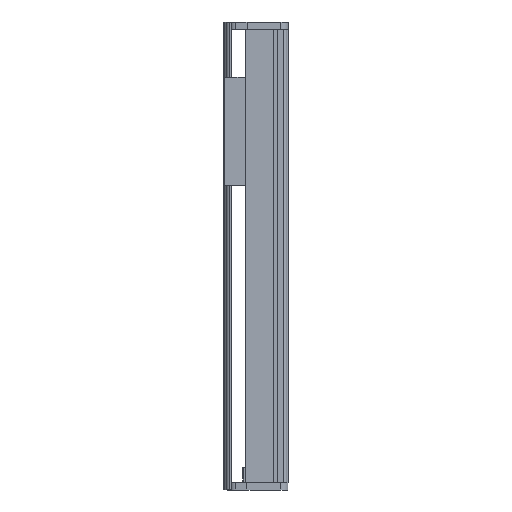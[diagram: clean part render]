
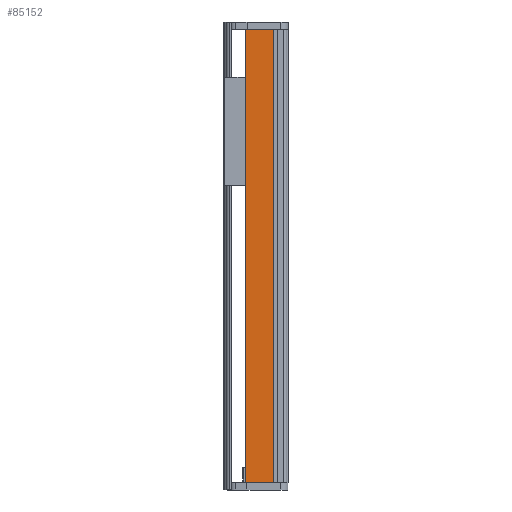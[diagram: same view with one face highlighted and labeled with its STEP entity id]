
A CAD part, left-side view. The second image highlights one B-rep face of the part: STEP entity #85152.
In plain terms, the highlighted planar face has unit normal (-1, 0, 0).
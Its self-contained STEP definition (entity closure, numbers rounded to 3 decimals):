
#1911 = DIRECTION ( 'NONE',  ( 1., 0., 0. ) ) ;
#5573 = EDGE_CURVE ( 'NONE', #101274, #77140, #8315, .T. ) ;
#8315 = LINE ( 'NONE', #10782, #54415 ) ;
#10782 = CARTESIAN_POINT ( 'NONE',  ( -96.777, 25.223, 630. ) ) ;
#10858 = DIRECTION ( 'NONE',  ( 0., 0., -1. ) ) ;
#13630 = ORIENTED_EDGE ( 'NONE', *, *, #40185, .T. ) ;
#14961 = FACE_OUTER_BOUND ( 'NONE', #85425, .T. ) ;
#16275 = ORIENTED_EDGE ( 'NONE', *, *, #5573, .T. ) ;
#21141 = CARTESIAN_POINT ( 'NONE',  ( -96.777, -13.077, 630. ) ) ;
#21590 = VECTOR ( 'NONE', #73164, 1000. ) ;
#32968 = CARTESIAN_POINT ( 'NONE',  ( -96.777, -13.077, 630. ) ) ;
#33149 = VECTOR ( 'NONE', #87124, 1000. ) ;
#34558 = VECTOR ( 'NONE', #98642, 1000. ) ;
#36439 = PLANE ( 'NONE',  #66694 ) ;
#37827 = CARTESIAN_POINT ( 'NONE',  ( -96.777, 0., 0. ) ) ;
#40185 = EDGE_CURVE ( 'NONE', #77140, #93529, #57632, .T. ) ;
#41188 = EDGE_CURVE ( 'NONE', #101274, #73255, #105171, .T. ) ;
#43992 = ORIENTED_EDGE ( 'NONE', *, *, #63591, .T. ) ;
#44636 = LINE ( 'NONE', #21141, #21590 ) ;
#53982 = CARTESIAN_POINT ( 'NONE',  ( -96.777, 25.223, 0. ) ) ;
#54415 = VECTOR ( 'NONE', #10858, 1000. ) ;
#57632 = LINE ( 'NONE', #37827, #34558 ) ;
#62628 = DIRECTION ( 'NONE',  ( 0., 1., 0. ) ) ;
#63591 = EDGE_CURVE ( 'NONE', #93529, #73255, #44636, .T. ) ;
#66694 = AXIS2_PLACEMENT_3D ( 'NONE', #105227, #1911, #62628 ) ;
#68548 = CARTESIAN_POINT ( 'NONE',  ( -96.777, 25.223, 630. ) ) ;
#72667 = ORIENTED_EDGE ( 'NONE', *, *, #41188, .F. ) ;
#73164 = DIRECTION ( 'NONE',  ( 0., 0., 1. ) ) ;
#73255 = VERTEX_POINT ( 'NONE', #32968 ) ;
#77140 = VERTEX_POINT ( 'NONE', #53982 ) ;
#85152 = ADVANCED_FACE ( 'NONE', ( #14961 ), #36439, .F. ) ;
#85425 = EDGE_LOOP ( 'NONE', ( #13630, #43992, #72667, #16275 ) ) ;
#87067 = CARTESIAN_POINT ( 'NONE',  ( -96.777, -13.077, 0. ) ) ;
#87124 = DIRECTION ( 'NONE',  ( 0., -1., 0. ) ) ;
#93529 = VERTEX_POINT ( 'NONE', #87067 ) ;
#95882 = CARTESIAN_POINT ( 'NONE',  ( -96.777, 0., 630. ) ) ;
#98642 = DIRECTION ( 'NONE',  ( 0., -1., 0. ) ) ;
#101274 = VERTEX_POINT ( 'NONE', #68548 ) ;
#105171 = LINE ( 'NONE', #95882, #33149 ) ;
#105227 = CARTESIAN_POINT ( 'NONE',  ( -96.777, 0., 630. ) ) ;
